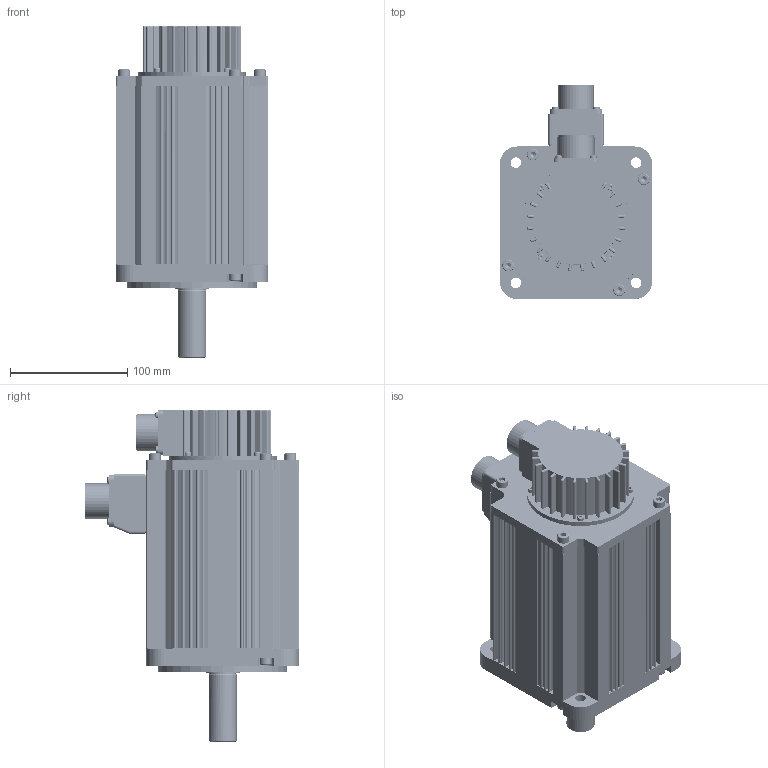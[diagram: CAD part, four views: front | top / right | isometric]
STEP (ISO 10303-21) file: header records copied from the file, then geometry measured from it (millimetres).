
FILE_DESCRIPTION((''),'2;1');
FILE_NAME('PH2-L13B230XXXX0A_ASM','2019-08-22T',('jiangfei6'),(''),'CREO PARAMETRIC BY PTC INC, 2015480','CREO PARAMETRIC BY PTC INC, 2015480','');
FILE_SCHEMA(('CONFIG_CONTROL_DESIGN'));
Products named in the file (17): 80Q0003701_AF0_1; 80D5003301_1; 80D2003101_1; 80D2003201_AF0_1_1; 80D2003201_AF0_1_2; 80D2003201_AF0_1_ASM; 80D2000901_1; MJ01-8038_1; 80S6003601_1; 80G6000501_1; 80G3000901_1; MJ01-8042_1; MJ01-8033_1; 80G3000501_1; MJ01-8041_1; R130-4KW_ASM_1_ASM; PH2-L13B230XXXX0A_ASM
Assembly tree (32 placements, depth 4):
  PH2-L13B230XXXX0A_ASM
    R130-4KW_ASM_1_ASM
      80Q0003701_AF0_1
      80D5003301_1
      80D2003101_1
      80D2003201_AF0_1_ASM
        80D2003201_AF0_1_1
        80D2003201_AF0_1_2
      80D2000901_1
      MJ01-8038_1  x8
      80S6003601_1
      80G6000501_1
      80G3000901_1
      MJ01-8042_1  x4
      MJ01-8033_1  x4
      80G3000501_1
      MJ01-8041_1  x4
Bounding box: 130 x 182.15 x 283.05 mm (x, y, z)
Volume: 746244.7 mm3; surface area: 371390.9 mm2
Topology: 29 solids, 55 shells, 6291 faces, 14178 edges, 7945 vertices
Faces by surface type: cone 2743, cylinder 2433, plane 973, sphere 100, torus 24, bspline 18
Entity records: 82738 total; most frequent: CARTESIAN_POINT 15771, DIRECTION 15079, ORIENTED_EDGE 13322, EDGE_CURVE 6722, AXIS2_PLACEMENT_3D 5812, VERTEX_POINT 4144, VECTOR 3455, LINE 3455
